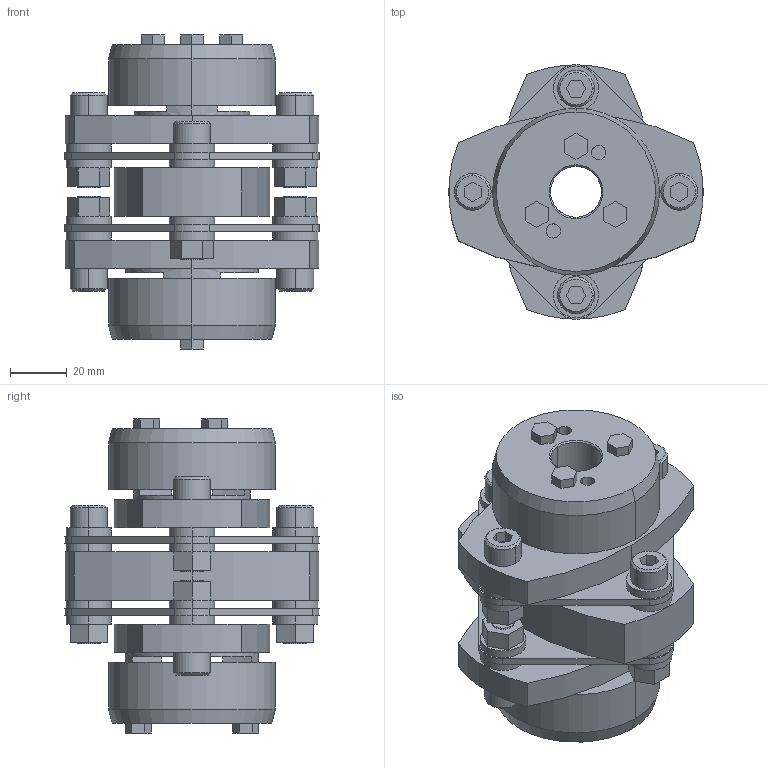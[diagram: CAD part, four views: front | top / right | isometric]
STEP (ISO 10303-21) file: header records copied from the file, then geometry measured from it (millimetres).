
FILE_DESCRIPTION((''),'2;1');
FILE_NAME('LCD-90T7-18×25.stp','2015-11-01T19:18:57',(''),(''),'AutoCAD STEP 2000i','AutoCAD 2000i',', , ');
FILE_SCHEMA(('CONFIG_CONTROL_DESIGN'));
Length unit declared in the file: millimetre
Products named in the file (6): LCD-90T7-19×25; 忣兜1; LC90T7-T025; LC90T7-T019-1; LC90T7-T019; LCD90-ITA
Assembly tree (5 placements, depth 2):
  LCD-90T7-19×25
    忣兜1
    LC90T7-T025
    LC90T7-T019-1
    LC90T7-T019
    LCD90-ITA
Bounding box: 90 x 89.94 x 111 mm (x, y, z)
Volume: 273602.3 mm3; surface area: 73560.1 mm2
Topology: 1 solids, 1 shells, 313 faces, 762 edges, 500 vertices
Faces by surface type: plane 169, cylinder 120, cone 24
Entity records: 9441 total; most frequent: DIRECTION 1680, CARTESIAN_POINT 1581, ORIENTED_EDGE 1524, EDGE_CURVE 762, AXIS2_PLACEMENT_3D 599, VERTEX_POINT 500, VECTOR 482, LINE 482
